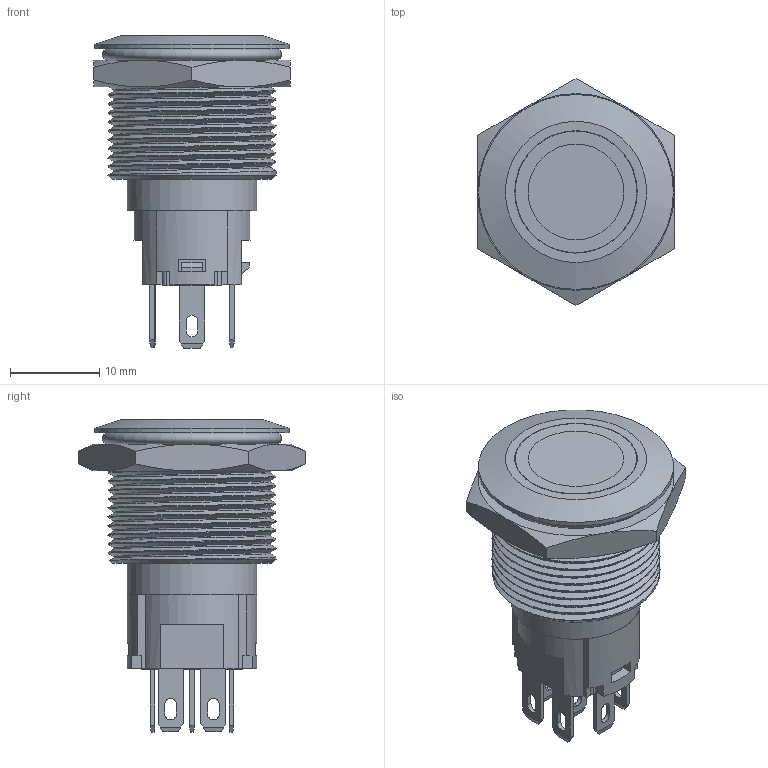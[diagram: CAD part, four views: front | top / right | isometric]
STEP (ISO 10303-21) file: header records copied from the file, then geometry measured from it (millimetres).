
FILE_DESCRIPTION(/* description */ (''),/* implementation_level */ '2;1');
FILE_NAME(/* name */ 'J19-271-M.stp',/* time_stamp */ '2023-10-06T13:10:14+08:00',/* author */ (''),/* organization */ (''),/* preprocessor_version */ 'ST-DEVELOPER v11',/* originating_system */ 'SIEMENS UGS NX 6.0',/* authorisation */ '');
FILE_SCHEMA (('CONFIG_CONTROL_DESIGN'));
Length unit declared in the file: millimetre
Products named in the file (1): J19-271-M
Bounding box: 22 x 25.4 x 35 mm (x, y, z)
Volume: 3714 mm3; surface area: 7514.9 mm2
Topology: 14 solids, 14 shells, 760 faces, 2075 edges, 1361 vertices
Faces by surface type: plane 636, cylinder 80, cone 20, extrusion 19, bspline 4, torus 1
Full cylindrical faces by diameter (mm): 1.9 x1, 2.4 x1, 2.5 x1, 4.1 x1, 5.4 x1, 7.4 x1, 10.6 x1, 10.7 x2, 11.6 x1, 13 x1, 13.6 x1, 13.7 x1, 14 x1, 14.1 x1, 14.5 x1, 21.8 x1
Entity records: 26307 total; most frequent: CARTESIAN_POINT 6966, ORIENTED_EDGE 4104, DIRECTION 3667, EDGE_CURVE 2052, VECTOR 1793, LINE 1774, VERTEX_POINT 1367, AXIS2_PLACEMENT_3D 937
